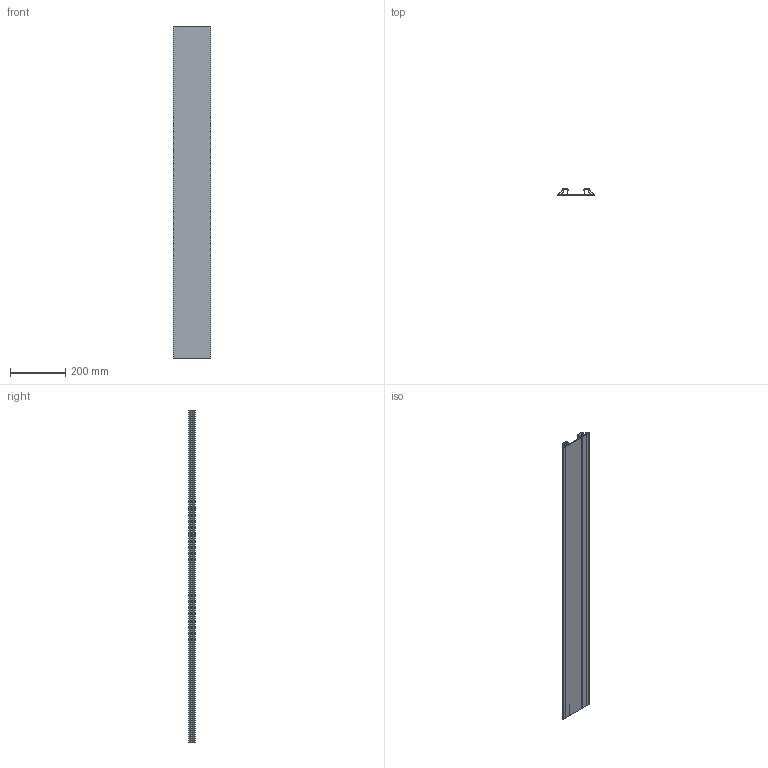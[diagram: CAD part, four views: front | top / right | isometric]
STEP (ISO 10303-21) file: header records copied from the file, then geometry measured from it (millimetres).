
FILE_DESCRIPTION(/* description */ ('STEP AP214'),/* implementation_level */ '2;1');
FILE_NAME(/* name */ ' 02082PO55.1200',/* time_stamp */ '2026-01-21T15:38:17+01:00',/* author */ ('License CC BY-ND 4.0'),/* organization */ ('CADENAS'),/* preprocessor_version */ 'ST-DEVELOPER v20',/* originating_system */ 'PARTsolutions',/* authorisation */ ' ');
FILE_SCHEMA (('AUTOMOTIVE_DESIGN {1 0 10303 214 3 1 1}'));
Length unit declared in the file: millimetre
Products named in the file (1):  02082PO55.1200
Bounding box: 135.5 x 22.7 x 1200 mm (x, y, z)
Volume: 678231.6 mm3; surface area: 667449.9 mm2
Topology: 1 solids, 1 shells, 92 faces, 270 edges, 180 vertices
Faces by surface type: plane 56, cylinder 36
Entity records: 3104 total; most frequent: CARTESIAN_POINT 543, ORIENTED_EDGE 540, DIRECTION 528, EDGE_CURVE 270, LINE 198, VECTOR 198, VERTEX_POINT 180, AXIS2_PLACEMENT_3D 165
